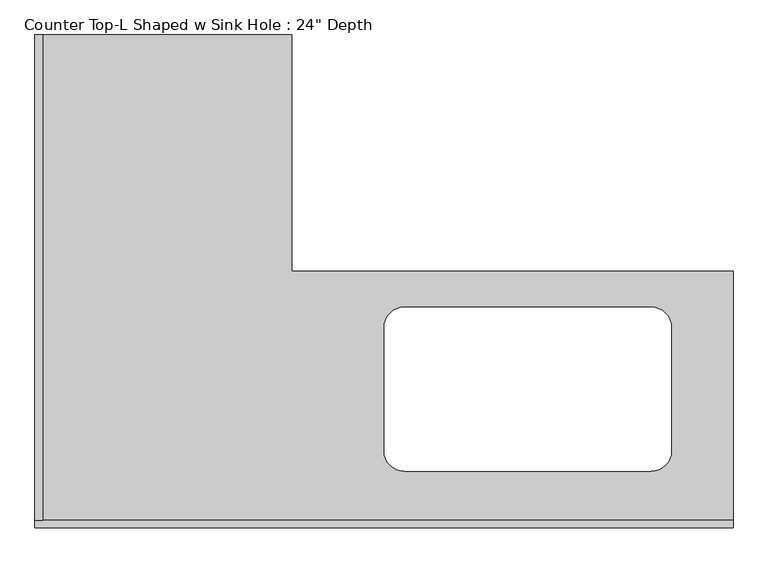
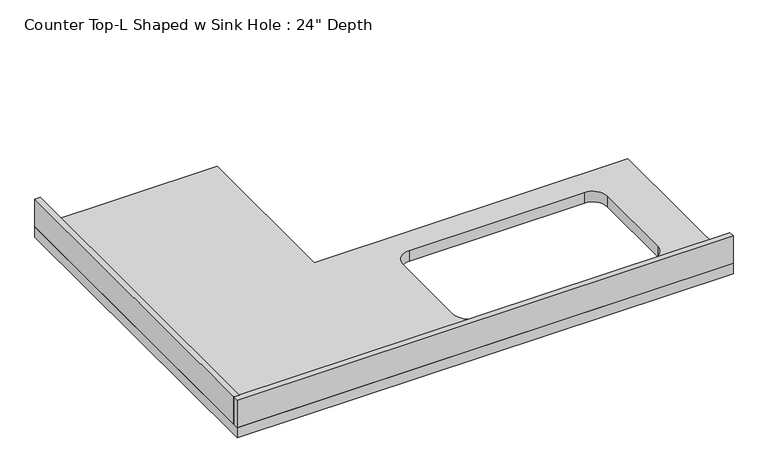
"""IFC4 building model written with IfcOpenShell, lengths in millimetres: furniture geometry."""

from ifc_helpers import new_model, si_unit, point, frame, frame_2d, origin, place, context, project, spatial, polyline, circle_curve, trimmed, segment, composite_curve, outline, extrude, source, transform, mapped, element, save


def furniture_22e119cc(model_context):
    return source(origin(), model_context, "Body", "SweptSolid", [
        extrude(outline(polyline([(-1181.4122951, 19.05), (-1200.4622951, 19.05), (-1200.4622951, 1219.2), (-1181.4122951, 1219.2), (-1181.4122951, 19.05)])), frame((0.0, 0.0, 914.4), z_axis=(0.0, 0.0, 1.0), x_axis=(1.0, 0.0, 0.0)), (0.0, 0.0, 1.0), 101.6),
        extrude(outline(polyline([(-1200.4622951, 0.0), (-1200.4622951, 19.05), (526.7377049, 19.05), (526.7377049, 0.0), (-1200.4622951, 0.0)])), frame((0.0, 0.0, 914.4), z_axis=(0.0, 0.0, 1.0), x_axis=(1.0, 0.0, 0.0)), (0.0, 0.0, 1.0), 101.6),
        extrude(outline(polyline([(526.7377049, 0.0), (-1200.4622951, 0.0), (-1200.4622951, 1219.2), (-565.4622951, 1219.2), (-565.4622951, 635.0), (526.7377049, 635.0), (526.7377049, 0.0)]), holes=[composite_curve([segment(trimmed(circle_curve(frame_2d((323.5377049, 190.5)), 50.8), [point((323.5377049, 139.7))], [point((374.3377049, 190.5))], True, "CARTESIAN"), True, "CONTINUOUS"), segment(polyline([(374.3377049, 190.5), (374.3377049, 495.3)]), True, "CONTINUOUS"), segment(trimmed(circle_curve(frame_2d((323.5377049, 495.3)), 50.8), [point((374.3377049, 495.3))], [point((323.5377049, 546.1))], True, "CARTESIAN"), True, "CONTINUOUS"), segment(polyline([(323.5377049, 546.1), (-286.0622951, 546.1)]), True, "CONTINUOUS"), segment(trimmed(circle_curve(frame_2d((-286.0622951, 495.3)), 50.8), [point((-286.0622951, 546.1))], [point((-336.8622951, 495.3))], True, "CARTESIAN"), True, "CONTINUOUS"), segment(polyline([(-336.8622951, 495.3), (-336.8622951, 190.5)]), True, "CONTINUOUS"), segment(trimmed(circle_curve(frame_2d((-286.0622951, 190.5)), 50.8), [point((-336.8622951, 190.5))], [point((-286.0622951, 139.7))], True, "CARTESIAN"), True, "CONTINUOUS"), segment(polyline([(-286.0622951, 139.7), (323.5377049, 139.7)]), True, "CONTINUOUS")], self_intersect=False)]), frame((0.0, 0.0, 876.3), z_axis=(0.0, 0.0, 1.0), x_axis=(1.0, 0.0, 0.0)), (0.0, 0.0, 1.0), 38.1),
    ])


if __name__ == "__main__":
    model = new_model("IFC4")
    model_context = context("Model", 3, world=origin())
    ifc_project = project(units=[si_unit("LENGTHUNIT", "METRE", prefix="MILLI")], contexts=[model_context])
    site = spatial("IfcSite", under=ifc_project)
    building = spatial("IfcBuilding", under=site)
    placement = place(None, origin())
    furniture_shape = furniture_22e119cc(model_context)
    element("IfcFurniture", 1, ObjectType="Counter Top-L Shaped w Sink Hole : 24\" Depth", at=placement, inside=building, context=model_context, shape_type="MappedRepresentation", body=[
        mapped(furniture_shape, transform((0.0, 0.0, 0.0), x_axis=(1.0, 0.0, 0.0), y_axis=(0.0, 1.0, 0.0), z_axis=(0.0, 0.0, 1.0))),
    ])
    save(model, "model.ifc")
